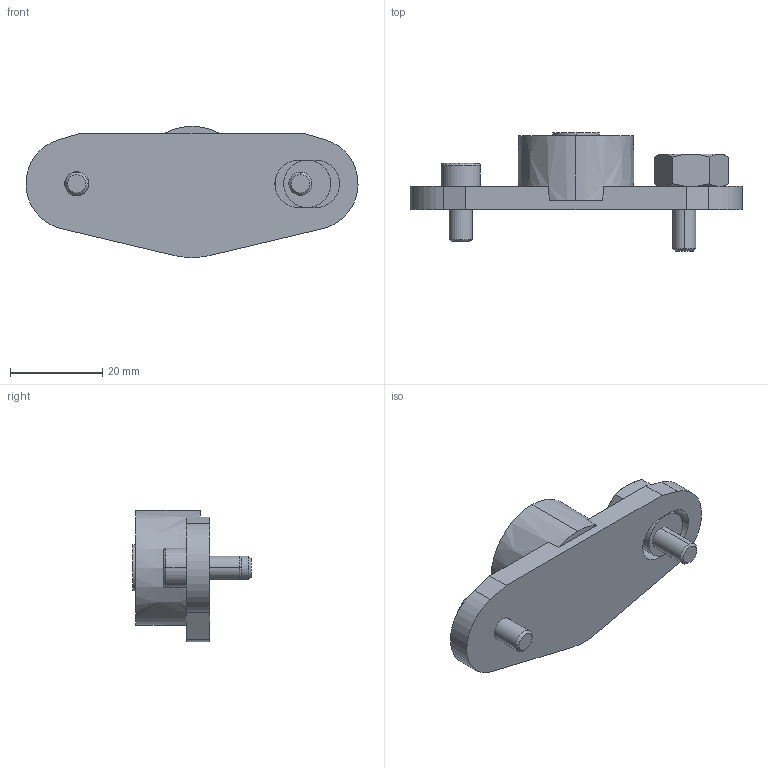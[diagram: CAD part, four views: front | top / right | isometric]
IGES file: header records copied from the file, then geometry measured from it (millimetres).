
Start section: 3D InterOp IGES (v. 2019 1.0.2), Spatial Corp. Copyright (c) 1999-2017.
Global section: file name: BHR 25 E.igs; native system: Spatial Corp.; preprocessor: 3D InterOp GENERIC/IGES 3.0; author: Noname; organization: Noname; date: 20220628.172228; units: millimetre
Bounding box: 71.99 x 25.6 x 28.45 mm (x, y, z)
Surface area: 6393.2 mm2 (no closed solid volume)
Topology: 0 solids, 0 shells, 107 faces, 502 edges, 500 vertices
Faces by surface type: revolution 53, extrusion 52, bspline 2
